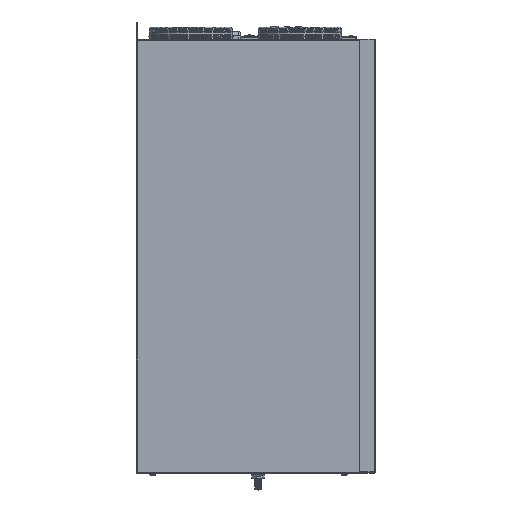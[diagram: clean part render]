
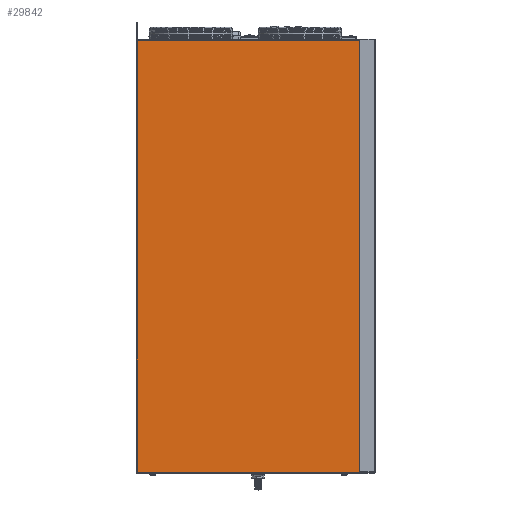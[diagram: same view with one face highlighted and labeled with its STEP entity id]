
A CAD part, top view. The second image highlights one B-rep face of the part: STEP entity #29842.
In plain terms, the highlighted planar face has unit normal (0, 0, 1).
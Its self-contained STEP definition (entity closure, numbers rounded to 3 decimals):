
#5572=FACE_OUTER_BOUND('',#7578,.T.);
#7578=EDGE_LOOP('',(#24471,#24472,#24473,#24474));
#8727=LINE('',#42441,#11000);
#8786=LINE('',#42643,#11059);
#8788=LINE('',#42646,#11061);
#8790=LINE('',#42649,#11063);
#11000=VECTOR('',#34097,10.);
#11059=VECTOR('',#34282,10.);
#11061=VECTOR('',#34286,10.);
#11063=VECTOR('',#34290,10.);
#13533=VERTEX_POINT('',#42438);
#13534=VERTEX_POINT('',#42440);
#13605=VERTEX_POINT('',#42602);
#13607=VERTEX_POINT('',#42607);
#16347=EDGE_CURVE('',#13533,#13534,#8727,.T.);
#16449=EDGE_CURVE('',#13534,#13607,#8786,.T.);
#16451=EDGE_CURVE('',#13607,#13605,#8788,.T.);
#16453=EDGE_CURVE('',#13605,#13533,#8790,.T.);
#24471=ORIENTED_EDGE('',*,*,#16449,.F.);
#24472=ORIENTED_EDGE('',*,*,#16347,.F.);
#24473=ORIENTED_EDGE('',*,*,#16453,.F.);
#24474=ORIENTED_EDGE('',*,*,#16451,.F.);
#28430=PLANE('',#31876);
#29842=ADVANCED_FACE('',(#5572),#28430,.T.);
#31876=AXIS2_PLACEMENT_3D('',#53423,#36922,#36923);
#34097=DIRECTION('',(0.,-1.,0.));
#34282=DIRECTION('',(-1.,0.,0.));
#34286=DIRECTION('',(0.,1.,0.));
#34290=DIRECTION('',(1.,0.,0.));
#36922=DIRECTION('center_axis',(0.,0.,
1.));
#36923=DIRECTION('ref_axis',(1.,0.,0.));
#42438=CARTESIAN_POINT('',(0.65,1036.7,296.7));
#42440=CARTESIAN_POINT('',(0.65,4.3,296.7));
#42441=CARTESIAN_POINT('',(0.65,3.185,296.7));
#42602=CARTESIAN_POINT('',(-530.15,1036.7,296.7));
#42607=CARTESIAN_POINT('',(-530.15,4.3,296.7));
#42643=CARTESIAN_POINT('',(-203.9,4.3,296.7));
#42646=CARTESIAN_POINT('',(-530.15,520.6,296.7));
#42649=CARTESIAN_POINT('',(-265.425,1036.7,296.7));
#53423=CARTESIAN_POINT('Origin',(-265.75,520.6,296.7));
